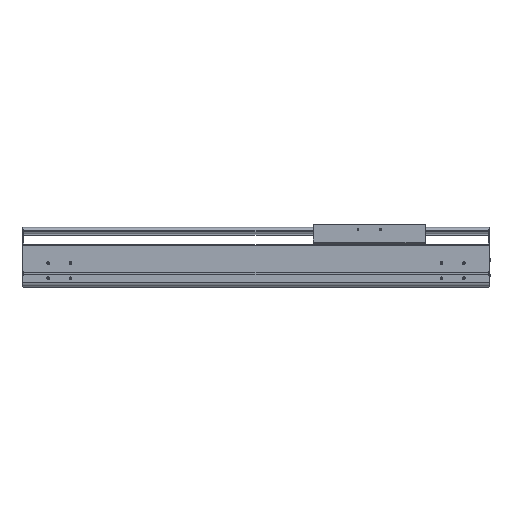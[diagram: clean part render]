
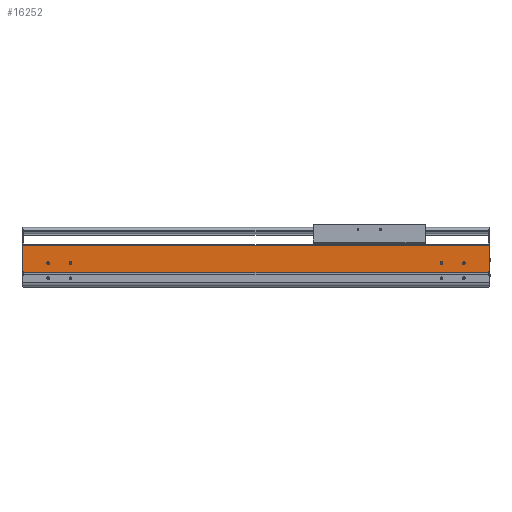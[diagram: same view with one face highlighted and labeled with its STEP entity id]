
A CAD part, top view. The second image highlights one B-rep face of the part: STEP entity #16252.
In plain terms, the highlighted planar face has unit normal (0, 0, 1).
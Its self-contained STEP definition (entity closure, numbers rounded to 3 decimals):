
#1628=DIRECTION('',(0.,-1.,0.));
#1629=VECTOR('',#1628,2.55);
#1630=CARTESIAN_POINT('',(0.,34.65,107.));
#1631=LINE('',#1630,#1629);
#2111=DIRECTION('',(1.,0.,0.));
#2112=VECTOR('',#2111,2.);
#2113=CARTESIAN_POINT('',(-1041.,34.65,107.));
#2114=LINE('',#2113,#2112);
#2115=CARTESIAN_POINT('',(-54.5,54.,107.));
#2116=DIRECTION('',(0.,0.,-1.));
#2117=DIRECTION('',(1.,0.,0.));
#2118=AXIS2_PLACEMENT_3D('',#2115,#2116,#2117);
#2120=CARTESIAN_POINT('',(-54.5,54.,107.));
#2121=DIRECTION('',(0.,0.,-1.));
#2122=DIRECTION('',(-1.,0.,0.));
#2123=AXIS2_PLACEMENT_3D('',#2120,#2121,#2122);
#2125=CARTESIAN_POINT('',(-104.5,54.,107.));
#2126=DIRECTION('',(0.,0.,-1.));
#2127=DIRECTION('',(1.,0.,0.));
#2128=AXIS2_PLACEMENT_3D('',#2125,#2126,#2127);
#2130=CARTESIAN_POINT('',(-104.5,54.,107.));
#2131=DIRECTION('',(0.,0.,-1.));
#2132=DIRECTION('',(-1.,0.,0.));
#2133=AXIS2_PLACEMENT_3D('',#2130,#2131,#2132);
#2135=CARTESIAN_POINT('',(-984.5,54.,107.));
#2136=DIRECTION('',(0.,0.,-1.));
#2137=DIRECTION('',(1.,0.,0.));
#2138=AXIS2_PLACEMENT_3D('',#2135,#2136,#2137);
#2140=CARTESIAN_POINT('',(-984.5,54.,107.));
#2141=DIRECTION('',(0.,0.,-1.));
#2142=DIRECTION('',(-1.,0.,0.));
#2143=AXIS2_PLACEMENT_3D('',#2140,#2141,#2142);
#2145=CARTESIAN_POINT('',(-934.5,54.,107.));
#2146=DIRECTION('',(0.,0.,-1.));
#2147=DIRECTION('',(1.,0.,0.));
#2148=AXIS2_PLACEMENT_3D('',#2145,#2146,#2147);
#2150=CARTESIAN_POINT('',(-934.5,54.,107.));
#2151=DIRECTION('',(0.,0.,-1.));
#2152=DIRECTION('',(-1.,0.,0.));
#2153=AXIS2_PLACEMENT_3D('',#2150,#2151,#2152);
#2155=DIRECTION('',(0.,-1.,0.));
#2156=VECTOR('',#2155,2.55);
#2157=CARTESIAN_POINT('',(-1039.,34.65,107.));
#2158=LINE('',#2157,#2156);
#2159=DIRECTION('',(0.,-1.,0.));
#2160=VECTOR('',#2159,58.85);
#2161=CARTESIAN_POINT('',(-1041.,93.5,107.));
#2162=LINE('',#2161,#2160);
#2163=DIRECTION('',(0.,1.,0.));
#2164=VECTOR('',#2163,58.85);
#2165=CARTESIAN_POINT('',(2.,34.65,107.));
#2166=LINE('',#2165,#2164);
#2167=DIRECTION('',(1.,0.,0.));
#2168=VECTOR('',#2167,1039.);
#2169=CARTESIAN_POINT('',(-1039.,32.1,107.));
#2170=LINE('',#2169,#2168);
#2275=DIRECTION('',(-1.,0.,0.));
#2276=VECTOR('',#2275,1043.);
#2277=CARTESIAN_POINT('',(2.,93.5,107.));
#2278=LINE('',#2277,#2276);
#9499=DIRECTION('',(1.,0.,0.));
#9500=VECTOR('',#9499,2.);
#9501=CARTESIAN_POINT('',(0.,34.65,107.));
#9502=LINE('',#9501,#9500);
#10749=CARTESIAN_POINT('',(-1041.,34.65,107.));
#10750=VERTEX_POINT('',#10749);
#10751=CARTESIAN_POINT('',(-1041.,93.5,107.));
#10752=VERTEX_POINT('',#10751);
#10981=CARTESIAN_POINT('',(-1039.,32.1,107.));
#10982=VERTEX_POINT('',#10981);
#11415=CARTESIAN_POINT('',(0.,32.1,107.));
#11416=VERTEX_POINT('',#11415);
#11417=CARTESIAN_POINT('',(-52.,54.,107.));
#11418=CARTESIAN_POINT('',(-57.,54.,107.));
#11419=VERTEX_POINT('',#11417);
#11420=VERTEX_POINT('',#11418);
#11421=CARTESIAN_POINT('',(-102.,54.,107.));
#11422=CARTESIAN_POINT('',(-107.,54.,107.));
#11423=VERTEX_POINT('',#11421);
#11424=VERTEX_POINT('',#11422);
#11425=CARTESIAN_POINT('',(-982.,54.,107.));
#11426=CARTESIAN_POINT('',(-987.,54.,107.));
#11427=VERTEX_POINT('',#11425);
#11428=VERTEX_POINT('',#11426);
#11429=CARTESIAN_POINT('',(-932.,54.,107.));
#11430=CARTESIAN_POINT('',(-937.,54.,107.));
#11431=VERTEX_POINT('',#11429);
#11432=VERTEX_POINT('',#11430);
#12442=CARTESIAN_POINT('',(2.,34.65,107.));
#12443=VERTEX_POINT('',#12442);
#12444=CARTESIAN_POINT('',(2.,93.5,107.));
#12445=VERTEX_POINT('',#12444);
#12788=CARTESIAN_POINT('',(0.,34.65,107.));
#12789=VERTEX_POINT('',#12788);
#12976=CARTESIAN_POINT('',(-1039.,34.65,107.));
#12977=VERTEX_POINT('',#12976);
#16210=CARTESIAN_POINT('',(-519.5,62.8,107.));
#16211=DIRECTION('',(0.,0.,1.));
#16212=DIRECTION('',(0.,-1.,0.));
#16213=AXIS2_PLACEMENT_3D('',#16210,#16211,#16212);
#16214=PLANE('',#16213);
#16215=ORIENTED_EDGE('',*,*,#14463,.F.);
#16216=ORIENTED_EDGE('',*,*,#16205,.F.);
#16217=ORIENTED_EDGE('',*,*,#15092,.F.);
#16219=ORIENTED_EDGE('',*,*,#16218,.F.);
#16220=ORIENTED_EDGE('',*,*,#14201,.F.);
#16222=ORIENTED_EDGE('',*,*,#16221,.F.);
#16223=ORIENTED_EDGE('',*,*,#15812,.T.);
#16225=ORIENTED_EDGE('',*,*,#16224,.F.);
#16226=EDGE_LOOP('',(#16215,#16216,#16217,#16219,#16220,#16222,#16223,#16225));
#16227=FACE_OUTER_BOUND('',#16226,.F.);
#16229=ORIENTED_EDGE('',*,*,#16228,.F.);
#16231=ORIENTED_EDGE('',*,*,#16230,.F.);
#16232=EDGE_LOOP('',(#16229,#16231));
#16233=FACE_BOUND('',#16232,.F.);
#16235=ORIENTED_EDGE('',*,*,#16234,.F.);
#16237=ORIENTED_EDGE('',*,*,#16236,.F.);
#16238=EDGE_LOOP('',(#16235,#16237));
#16239=FACE_BOUND('',#16238,.F.);
#16241=ORIENTED_EDGE('',*,*,#16240,.F.);
#16243=ORIENTED_EDGE('',*,*,#16242,.F.);
#16244=EDGE_LOOP('',(#16241,#16243));
#16245=FACE_BOUND('',#16244,.F.);
#16247=ORIENTED_EDGE('',*,*,#16246,.F.);
#16249=ORIENTED_EDGE('',*,*,#16248,.F.);
#16250=EDGE_LOOP('',(#16247,#16249));
#16251=FACE_BOUND('',#16250,.F.);
#16252=ADVANCED_FACE('',(#16227,#16233,#16239,#16245,#16251),#16214,.T.);
#2119=CIRCLE('',#2118,2.5);
#2124=CIRCLE('',#2123,2.5);
#2129=CIRCLE('',#2128,2.5);
#2134=CIRCLE('',#2133,2.5);
#2139=CIRCLE('',#2138,2.5);
#2144=CIRCLE('',#2143,2.5);
#2149=CIRCLE('',#2148,2.5);
#2154=CIRCLE('',#2153,2.5);
#14201=EDGE_CURVE('',#12443,#12445,#2166,.T.);
#14463=EDGE_CURVE('',#12977,#10982,#2158,.T.);
#15092=EDGE_CURVE('',#10752,#10750,#2162,.T.);
#15812=EDGE_CURVE('',#12789,#11416,#1631,.T.);
#16205=EDGE_CURVE('',#10750,#12977,#2114,.T.);
#16218=EDGE_CURVE('',#12445,#10752,#2278,.T.);
#16221=EDGE_CURVE('',#12789,#12443,#9502,.T.);
#16224=EDGE_CURVE('',#10982,#11416,#2170,.T.);
#16228=EDGE_CURVE('',#11423,#11424,#2129,.T.);
#16230=EDGE_CURVE('',#11424,#11423,#2134,.T.);
#16234=EDGE_CURVE('',#11427,#11428,#2139,.T.);
#16236=EDGE_CURVE('',#11428,#11427,#2144,.T.);
#16240=EDGE_CURVE('',#11431,#11432,#2149,.T.);
#16242=EDGE_CURVE('',#11432,#11431,#2154,.T.);
#16246=EDGE_CURVE('',#11419,#11420,#2119,.T.);
#16248=EDGE_CURVE('',#11420,#11419,#2124,.T.);
